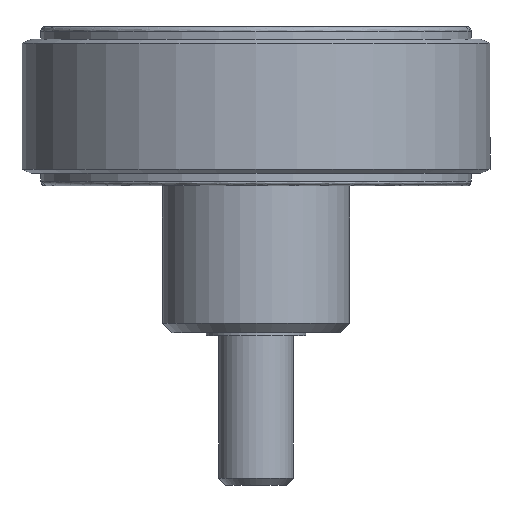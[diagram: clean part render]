
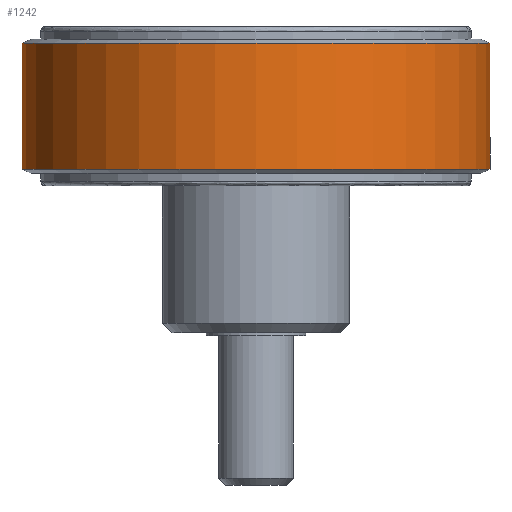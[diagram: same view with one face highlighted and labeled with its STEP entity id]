
A CAD part, front view. The second image highlights one B-rep face of the part: STEP entity #1242.
In plain terms, the highlighted cylindrical face has radius 25 mm (diameter 50 mm), a partial arc.
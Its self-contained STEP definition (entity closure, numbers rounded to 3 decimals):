
#48 = EDGE_CURVE ( 'NONE', #1002, #936, #621, .T. ) ;
#68 = CARTESIAN_POINT ( 'NONE',  ( -25., 0., 17.786 ) ) ;
#98 = ORIENTED_EDGE ( 'NONE', *, *, #48, .F. ) ;
#142 = CARTESIAN_POINT ( 'NONE',  ( 25., 0., 17.786 ) ) ;
#197 = VECTOR ( 'NONE', #495, 1000. ) ;
#206 = CARTESIAN_POINT ( 'NONE',  ( -25., 0., 0. ) ) ;
#241 = EDGE_CURVE ( 'NONE', #1363, #936, #1007, .T. ) ;
#245 = DIRECTION ( 'NONE',  ( 0., 0., 1. ) ) ;
#288 = CARTESIAN_POINT ( 'NONE',  ( 0., 0., 31.214 ) ) ;
#301 = ORIENTED_EDGE ( 'NONE', *, *, #241, .T. ) ;
#389 = CARTESIAN_POINT ( 'NONE',  ( -25., 0., 31.214 ) ) ;
#451 = DIRECTION ( 'NONE',  ( 0., 0., 1. ) ) ;
#461 = AXIS2_PLACEMENT_3D ( 'NONE', #655, #245, #1197 ) ;
#495 = DIRECTION ( 'NONE',  ( 0., 0., -1. ) ) ;
#602 = LINE ( 'NONE', #206, #1640 ) ;
#621 = LINE ( 'NONE', #1775, #197 ) ;
#655 = CARTESIAN_POINT ( 'NONE',  ( 0., 0., 17.786 ) ) ;
#724 = CIRCLE ( 'NONE', #1670, 25. ) ;
#801 = CYLINDRICAL_SURFACE ( 'NONE', #1552, 25. ) ;
#830 = FACE_OUTER_BOUND ( 'NONE', #1130, .T. ) ;
#936 = VERTEX_POINT ( 'NONE', #142 ) ;
#1002 = VERTEX_POINT ( 'NONE', #1553 ) ;
#1007 = CIRCLE ( 'NONE', #461, 25. ) ;
#1120 = DIRECTION ( 'NONE',  ( -1., 0., 0. ) ) ;
#1130 = EDGE_LOOP ( 'NONE', ( #98, #1646, #1710, #301 ) ) ;
#1197 = DIRECTION ( 'NONE',  ( -1., 0., 0. ) ) ;
#1203 = EDGE_CURVE ( 'NONE', #1434, #1002, #724, .T. ) ;
#1229 = CARTESIAN_POINT ( 'NONE',  ( 0., 0., 0. ) ) ;
#1239 = DIRECTION ( 'NONE',  ( 0., 0., -1. ) ) ;
#1242 = ADVANCED_FACE ( 'NONE', ( #830 ), #801, .T. ) ;
#1363 = VERTEX_POINT ( 'NONE', #68 ) ;
#1434 = VERTEX_POINT ( 'NONE', #389 ) ;
#1552 = AXIS2_PLACEMENT_3D ( 'NONE', #1229, #1239, #1120 ) ;
#1553 = CARTESIAN_POINT ( 'NONE',  ( 25., 0., 31.214 ) ) ;
#1640 = VECTOR ( 'NONE', #1722, 1000. ) ;
#1646 = ORIENTED_EDGE ( 'NONE', *, *, #1203, .F. ) ;
#1670 = AXIS2_PLACEMENT_3D ( 'NONE', #288, #451, #1778 ) ;
#1710 = ORIENTED_EDGE ( 'NONE', *, *, #1849, .T. ) ;
#1722 = DIRECTION ( 'NONE',  ( 0., 0., -1. ) ) ;
#1775 = CARTESIAN_POINT ( 'NONE',  ( 25., 0., 0. ) ) ;
#1778 = DIRECTION ( 'NONE',  ( 0., 1., 0. ) ) ;
#1849 = EDGE_CURVE ( 'NONE', #1434, #1363, #602, .T. ) ;
